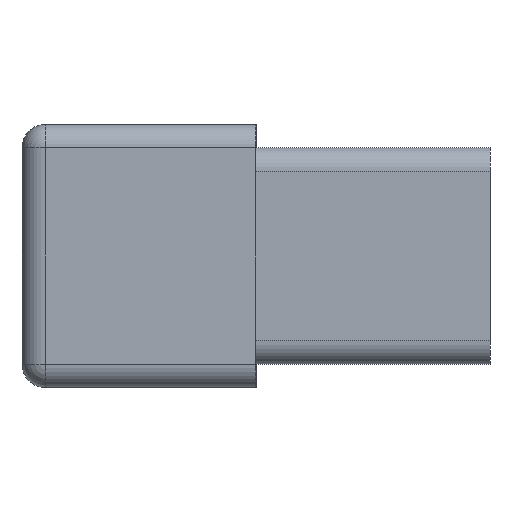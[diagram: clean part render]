
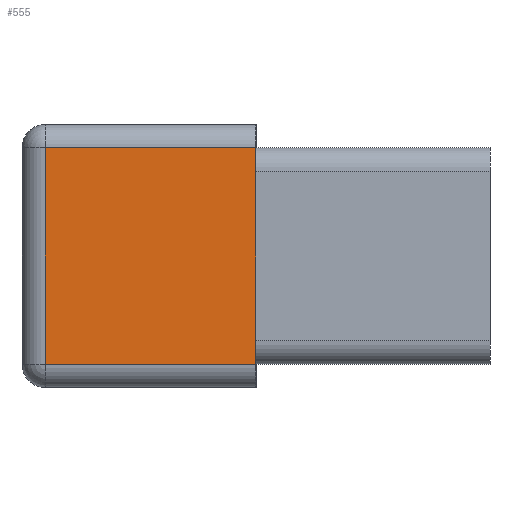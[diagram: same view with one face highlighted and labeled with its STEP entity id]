
A CAD part, left-side view. The second image highlights one B-rep face of the part: STEP entity #555.
In plain terms, the highlighted planar face has unit normal (-1, 0, 0).
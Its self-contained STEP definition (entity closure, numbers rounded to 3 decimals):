
#32 = CARTESIAN_POINT ( 'NONE',  ( -40., 0., -18.5 ) ) ;
#79 = VECTOR ( 'NONE', #641, 1000. ) ;
#89 = VERTEX_POINT ( 'NONE', #780 ) ;
#109 = EDGE_CURVE ( 'NONE', #1319, #89, #1416, .T. ) ;
#110 = DIRECTION ( 'NONE',  ( 0., -1., 0. ) ) ;
#175 = EDGE_CURVE ( 'NONE', #670, #190, #861, .T. ) ;
#190 = VERTEX_POINT ( 'NONE', #32 ) ;
#303 = DIRECTION ( 'NONE',  ( 0., 0., -1. ) ) ;
#306 = LINE ( 'NONE', #773, #1435 ) ;
#316 = DIRECTION ( 'NONE',  ( 1., 0., 0. ) ) ;
#424 = VECTOR ( 'NONE', #110, 1000. ) ;
#485 = ORIENTED_EDGE ( 'NONE', *, *, #1410, .T. ) ;
#515 = ORIENTED_EDGE ( 'NONE', *, *, #175, .T. ) ;
#517 = ORIENTED_EDGE ( 'NONE', *, *, #1287, .T. ) ;
#555 = ADVANCED_FACE ( 'NONE', ( #804 ), #735, .F. ) ;
#641 = DIRECTION ( 'NONE',  ( 0., 0., 1. ) ) ;
#661 = LINE ( 'NONE', #732, #79 ) ;
#670 = VERTEX_POINT ( 'NONE', #1314 ) ;
#732 = CARTESIAN_POINT ( 'NONE',  ( -40., 0., 22.5 ) ) ;
#735 = PLANE ( 'NONE',  #1413 ) ;
#762 = CARTESIAN_POINT ( 'NONE',  ( -40., 40., -18.5 ) ) ;
#773 = CARTESIAN_POINT ( 'NONE',  ( -40., 36., -18.5 ) ) ;
#780 = CARTESIAN_POINT ( 'NONE',  ( -40., 36., 18.5 ) ) ;
#804 = FACE_OUTER_BOUND ( 'NONE', #1234, .T. ) ;
#852 = CARTESIAN_POINT ( 'NONE',  ( -40., 40., 22.5 ) ) ;
#861 = LINE ( 'NONE', #762, #424 ) ;
#869 = DIRECTION ( 'NONE',  ( 0., 1., 0. ) ) ;
#872 = DIRECTION ( 'NONE',  ( 0., 0., -1. ) ) ;
#1196 = VECTOR ( 'NONE', #869, 1000. ) ;
#1234 = EDGE_LOOP ( 'NONE', ( #1401, #485, #515, #517 ) ) ;
#1287 = EDGE_CURVE ( 'NONE', #190, #1319, #661, .T. ) ;
#1314 = CARTESIAN_POINT ( 'NONE',  ( -40., 36., -18.5 ) ) ;
#1319 = VERTEX_POINT ( 'NONE', #1397 ) ;
#1397 = CARTESIAN_POINT ( 'NONE',  ( -40., 0., 18.5 ) ) ;
#1401 = ORIENTED_EDGE ( 'NONE', *, *, #109, .T. ) ;
#1410 = EDGE_CURVE ( 'NONE', #89, #670, #306, .T. ) ;
#1413 = AXIS2_PLACEMENT_3D ( 'NONE', #852, #316, #303 ) ;
#1416 = LINE ( 'NONE', #1420, #1196 ) ;
#1420 = CARTESIAN_POINT ( 'NONE',  ( -40., 40., 18.5 ) ) ;
#1435 = VECTOR ( 'NONE', #872, 1000. ) ;
